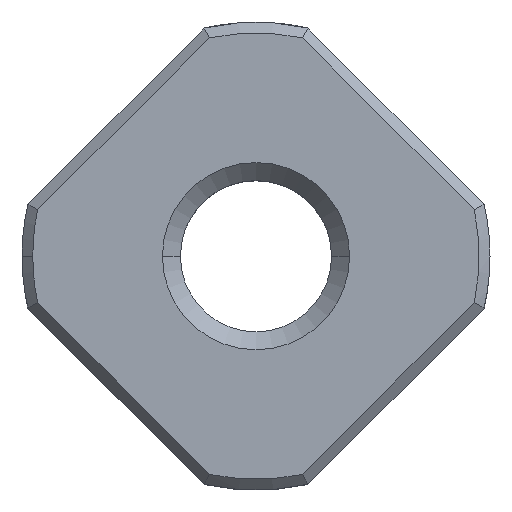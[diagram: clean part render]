
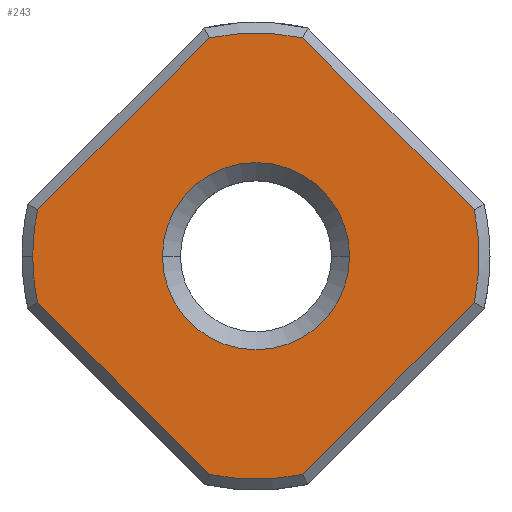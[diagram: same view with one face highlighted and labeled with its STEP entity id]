
A CAD part, top view. The second image highlights one B-rep face of the part: STEP entity #243.
In plain terms, the highlighted planar face has unit normal (0, 0, 1).
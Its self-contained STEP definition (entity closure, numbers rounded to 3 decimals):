
#8 = VERTEX_POINT ( 'NONE', #439 ) ;
#10 = VERTEX_POINT ( 'NONE', #438 ) ;
#18 = EDGE_CURVE ( 'NONE', #10, #8, #475, .T. ) ;
#64 = EDGE_CURVE ( 'NONE', #65, #66, #564, .T. ) ;
#65 = VERTEX_POINT ( 'NONE', #559 ) ;
#66 = VERTEX_POINT ( 'NONE', #558 ) ;
#164 = EDGE_CURVE ( 'NONE', #8, #10, #791, .T. ) ;
#165 = EDGE_LOOP ( 'NONE', ( #166, #170, #227, #230, #233, #235, #236, #213, #216 ) ) ;
#166 = ORIENTED_EDGE ( 'NONE', *, *, #167, .T. ) ;
#167 = EDGE_CURVE ( 'NONE', #168, #169, #846, .T. ) ;
#168 = VERTEX_POINT ( 'NONE', #841 ) ;
#169 = VERTEX_POINT ( 'NONE', #840 ) ;
#170 = ORIENTED_EDGE ( 'NONE', *, *, #226, .T. ) ;
#171 = VERTEX_POINT ( 'NONE', #839 ) ;
#213 = ORIENTED_EDGE ( 'NONE', *, *, #214, .T. ) ;
#214 = EDGE_CURVE ( 'NONE', #238, #215, #892, .T. ) ;
#215 = VERTEX_POINT ( 'NONE', #893 ) ;
#216 = ORIENTED_EDGE ( 'NONE', *, *, #217, .T. ) ;
#217 = EDGE_CURVE ( 'NONE', #215, #168, #935, .T. ) ;
#226 = EDGE_CURVE ( 'NONE', #169, #171, #913, .T. ) ;
#227 = ORIENTED_EDGE ( 'NONE', *, *, #228, .T. ) ;
#228 = EDGE_CURVE ( 'NONE', #171, #229, #979, .T. ) ;
#229 = VERTEX_POINT ( 'NONE', #974 ) ;
#230 = ORIENTED_EDGE ( 'NONE', *, *, #231, .T. ) ;
#231 = EDGE_CURVE ( 'NONE', #229, #232, #973, .T. ) ;
#232 = VERTEX_POINT ( 'NONE', #969 ) ;
#233 = ORIENTED_EDGE ( 'NONE', *, *, #234, .T. ) ;
#234 = EDGE_CURVE ( 'NONE', #232, #65, #967, .T. ) ;
#235 = ORIENTED_EDGE ( 'NONE', *, *, #64, .T. ) ;
#236 = ORIENTED_EDGE ( 'NONE', *, *, #237, .T. ) ;
#237 = EDGE_CURVE ( 'NONE', #66, #238, #968, .T. ) ;
#238 = VERTEX_POINT ( 'NONE', #959 ) ;
#243 = ADVANCED_FACE ( 'NONE', ( #949, #948 ), #1010, .T. ) ;
#244 = EDGE_LOOP ( 'NONE', ( #245, #246 ) ) ;
#245 = ORIENTED_EDGE ( 'NONE', *, *, #18, .T. ) ;
#246 = ORIENTED_EDGE ( 'NONE', *, *, #164, .T. ) ;
#438 = CARTESIAN_POINT ( 'NONE',  ( 2.6, 0., 0. ) ) ;
#439 = CARTESIAN_POINT ( 'NONE',  ( -2.6, 0., 0. ) ) ;
#471 = DIRECTION ( 'NONE',  ( 1., 0., 0. ) ) ;
#472 = DIRECTION ( 'NONE',  ( 0., 0., -1. ) ) ;
#473 = CARTESIAN_POINT ( 'NONE',  ( 0., 0., 0. ) ) ;
#474 = AXIS2_PLACEMENT_3D ( 'NONE', #473, #472, #471 ) ;
#475 = CIRCLE ( 'NONE', #474, 2.6 ) ;
#558 = CARTESIAN_POINT ( 'NONE',  ( -6.064, -1.289, 0. ) ) ;
#559 = CARTESIAN_POINT ( 'NONE',  ( -6.2, 0., 0. ) ) ;
#560 = DIRECTION ( 'NONE',  ( 1., 0., 0. ) ) ;
#561 = DIRECTION ( 'NONE',  ( 0., 0., 1. ) ) ;
#562 = CARTESIAN_POINT ( 'NONE',  ( 0., 0., 0. ) ) ;
#563 = AXIS2_PLACEMENT_3D ( 'NONE', #562, #561, #560 ) ;
#564 = CIRCLE ( 'NONE', #563, 6.2 ) ;
#783 = DIRECTION ( 'NONE',  ( 1., 0., 0. ) ) ;
#784 = DIRECTION ( 'NONE',  ( 0., 0., -1. ) ) ;
#785 = CARTESIAN_POINT ( 'NONE',  ( 0., 0., 0. ) ) ;
#786 = AXIS2_PLACEMENT_3D ( 'NONE', #785, #784, #783 ) ;
#791 = CIRCLE ( 'NONE', #786, 2.6 ) ;
#839 = CARTESIAN_POINT ( 'NONE',  ( 1.289, 6.064, 0. ) ) ;
#840 = CARTESIAN_POINT ( 'NONE',  ( 6.064, 1.289, 0. ) ) ;
#841 = CARTESIAN_POINT ( 'NONE',  ( 6.064, -1.289, 0. ) ) ;
#842 = DIRECTION ( 'NONE',  ( 1., 0., 0. ) ) ;
#843 = DIRECTION ( 'NONE',  ( 0., 0., 1. ) ) ;
#844 = CARTESIAN_POINT ( 'NONE',  ( 0., 0., 0. ) ) ;
#845 = AXIS2_PLACEMENT_3D ( 'NONE', #844, #843, #842 ) ;
#846 = CIRCLE ( 'NONE', #845, 6.2 ) ;
#888 = DIRECTION ( 'NONE',  ( 1., 0., 0. ) ) ;
#889 = DIRECTION ( 'NONE',  ( 0., 0., 1. ) ) ;
#890 = CARTESIAN_POINT ( 'NONE',  ( 0., 0., 0. ) ) ;
#891 = AXIS2_PLACEMENT_3D ( 'NONE', #890, #889, #888 ) ;
#892 = CIRCLE ( 'NONE', #891, 6.2 ) ;
#893 = CARTESIAN_POINT ( 'NONE',  ( 1.289, -6.064, 0. ) ) ;
#911 = VECTOR ( 'NONE', #980, 1000. ) ;
#912 = CARTESIAN_POINT ( 'NONE',  ( -0.212, 7.566, 0. ) ) ;
#913 = LINE ( 'NONE', #912, #911 ) ;
#932 = DIRECTION ( 'NONE',  ( 0.707, 0.707, 0. ) ) ;
#933 = VECTOR ( 'NONE', #932, 1000. ) ;
#934 = CARTESIAN_POINT ( 'NONE',  ( 7.566, 0.212, 0. ) ) ;
#935 = LINE ( 'NONE', #934, #933 ) ;
#948 = FACE_OUTER_BOUND ( 'NONE', #165, .T. ) ;
#949 = FACE_BOUND ( 'NONE', #244, .T. ) ;
#959 = CARTESIAN_POINT ( 'NONE',  ( -1.289, -6.064, 0. ) ) ;
#960 = DIRECTION ( 'NONE',  ( 0.707, -0.707, 0. ) ) ;
#961 = VECTOR ( 'NONE', #960, 1000. ) ;
#962 = CARTESIAN_POINT ( 'NONE',  ( -7.566, 0.212, 0. ) ) ;
#963 = DIRECTION ( 'NONE',  ( 1., 0., 0. ) ) ;
#964 = DIRECTION ( 'NONE',  ( 0., 0., 1. ) ) ;
#965 = CARTESIAN_POINT ( 'NONE',  ( 0., 0., 0. ) ) ;
#966 = AXIS2_PLACEMENT_3D ( 'NONE', #965, #964, #963 ) ;
#967 = CIRCLE ( 'NONE', #966, 6.2 ) ;
#968 = LINE ( 'NONE', #962, #961 ) ;
#969 = CARTESIAN_POINT ( 'NONE',  ( -6.064, 1.289, 0. ) ) ;
#970 = DIRECTION ( 'NONE',  ( -0.707, -0.707, 0. ) ) ;
#971 = VECTOR ( 'NONE', #970, 1000. ) ;
#972 = CARTESIAN_POINT ( 'NONE',  ( 0.212, 7.566, 0. ) ) ;
#973 = LINE ( 'NONE', #972, #971 ) ;
#974 = CARTESIAN_POINT ( 'NONE',  ( -1.289, 6.064, 0. ) ) ;
#975 = DIRECTION ( 'NONE',  ( 1., 0., 0. ) ) ;
#976 = DIRECTION ( 'NONE',  ( 0., 0., 1. ) ) ;
#977 = CARTESIAN_POINT ( 'NONE',  ( 0., 0., 0. ) ) ;
#978 = AXIS2_PLACEMENT_3D ( 'NONE', #977, #976, #975 ) ;
#979 = CIRCLE ( 'NONE', #978, 6.2 ) ;
#980 = DIRECTION ( 'NONE',  ( -0.707, 0.707, 0. ) ) ;
#1006 = DIRECTION ( 'NONE',  ( 1., 0., 0. ) ) ;
#1007 = DIRECTION ( 'NONE',  ( 0., 0., 1. ) ) ;
#1008 = CARTESIAN_POINT ( 'NONE',  ( 0., 7.778, 0. ) ) ;
#1009 = AXIS2_PLACEMENT_3D ( 'NONE', #1008, #1007, #1006 ) ;
#1010 = PLANE ( 'NONE',  #1009 ) ;
